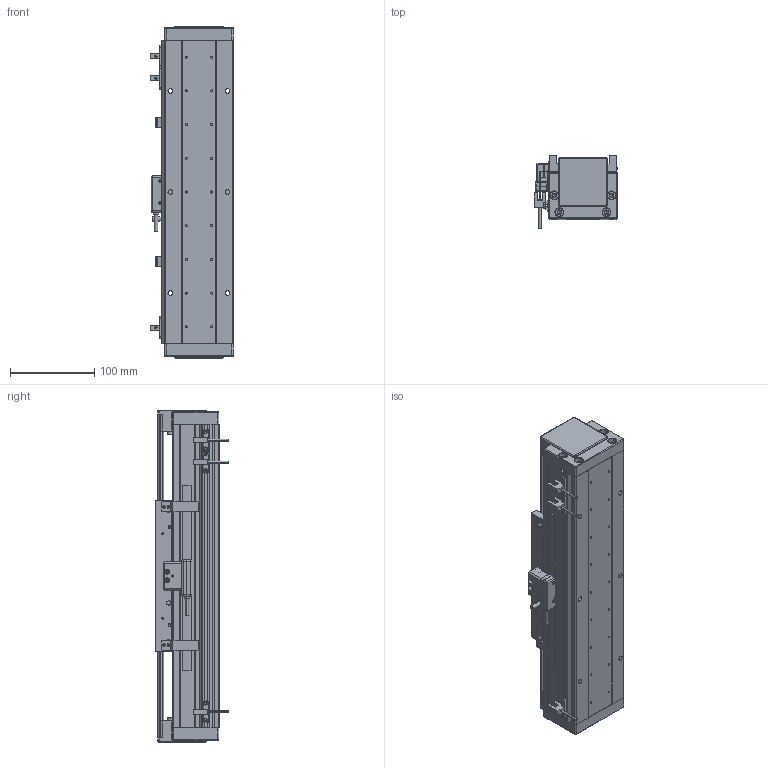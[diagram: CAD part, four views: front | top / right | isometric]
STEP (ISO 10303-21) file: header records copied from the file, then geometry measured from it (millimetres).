
FILE_DESCRIPTION (( 'STEP AP203' ), '1' );
FILE_NAME ('DA-A82-B2-T140-C010-0.2 眻盄萇儂.STEP', '2025-08-13T03:02:11', ( '' ), ( '' ), 'SwSTEP 2.0', 'SolidWorks 2019', '' );
FILE_SCHEMA (( 'CONFIG_CONTROL_DESIGN' ));
Length unit declared in the file: millimetre
Products named in the file (21): 复件 复件 DA82-XJ-00 缓冲橡胶^DA-A82-B2-T-C010-0.2; 复件 DA95-GT-T-00 底座钢轨^IU-AU82-L 底座导轨; 复件 纯铜油杯 6x6mm^AU82-M 滚珠滑台; ｸｴｼ BKM02-W040-C1-TP-DA-3.0 ﾖｱﾏﾟｵ扈巐ｯﾗﾓ^DA-A82-B2-T-C010-0.2; 葩璃 DA82-T-002-00 裔啣^DA-A82-B2-T-C010-0.2; 葩璃 BKM01-W040-TRL^DA-A82-B2-T-C010-0.2; AU82-M-00 珨极趙賑雄怢啣; IU-AU82-L 菁釱絳寢; AU82-HT-M-00 賑雄怢啣; 葩璃 DA60-DMT-DTJ-00 黍杅芛盓殤^DA-A82-B2-T-C010-0.2; AU82-M 幗紩賑怢; 葩璃 PM-T45^DA-A82-B2-T-C010-0.2; DA-A82-B2-T140-C010-0.2 眻盄萇儂; DA-A60-GYP-DMT-00 光电感应片^DA-A82-B2-T-C010-0.2(默认); 复件 DA82-DG-H-N-00 端盖^DA-A82-B2-T-C010-0.2(默认_按加工_); IU-AU82-L-00 菁釱(L360); 葩璃 鞠褒情蹟譫 M3^DA-A82-B2-T-C010-0.2; 葩璃 DA82-B2-DP-00 結え^AU82-M 幗紩賑怢; 葩璃 XD-U-02  棠掑喜^DA-A82-B2-T-C010-0.2; 复件 DA95-B2-GT-00 滑块钢轨^AU82-M-00 一体化滑动台板; 葩璃 DMT-010 1米m 0.2M^DA-A82-B2-T-C010-0.2
Assembly tree (36 placements, depth 4):
  DA-A82-B2-T140-C010-0.2 眻盄萇儂
    IU-AU82-L 菁釱絳寢
      IU-AU82-L-00 菁釱(L360)
      复件 DA95-GT-T-00 底座钢轨^IU-AU82-L 底座导轨  x2
    AU82-M 幗紩賑怢
      AU82-M-00 珨极趙賑雄怢啣
        AU82-HT-M-00 賑雄怢啣
        复件 DA95-B2-GT-00 滑块钢轨^AU82-M-00 一体化滑动台板  x4
      葩璃 DA82-B2-DP-00 結え^AU82-M 幗紩賑怢  x2
      复件 纯铜油杯 6x6mm^AU82-M 滚珠滑台  x2
    葩璃 DA60-DMT-DTJ-00 黍杅芛盓殤^DA-A82-B2-T-C010-0.2
    葩璃 DMT-010 1米m 0.2M^DA-A82-B2-T-C010-0.2
    DA-A60-GYP-DMT-00 光电感应片^DA-A82-B2-T-C010-0.2(默认)  x2
    ｸｴｼ BKM02-W040-C1-TP-DA-3.0 ﾖｱﾏﾟｵ扈巐ｯﾗﾓ^DA-A82-B2-T-C010-0.2
    复件 复件 DA82-XJ-00 缓冲橡胶^DA-A82-B2-T-C010-0.2  x2
    复件 DA82-DG-H-N-00 端盖^DA-A82-B2-T-C010-0.2(默认_按加工_)  x2
    葩璃 DA82-T-002-00 裔啣^DA-A82-B2-T-C010-0.2
    葩璃 BKM01-W040-TRL^DA-A82-B2-T-C010-0.2
    葩璃 PM-T45^DA-A82-B2-T-C010-0.2  x3
    葩璃 XD-U-02  棠掑喜^DA-A82-B2-T-C010-0.2
    葩璃 鞠褒情蹟譫 M3^DA-A82-B2-T-C010-0.2  x6
Bounding box: 98.95 x 87.2 x 394 mm (x, y, z)
Volume: 1603464.5 mm3; surface area: 443810.7 mm2
Topology: 40 solids, 64 shells, 1825 faces, 4654 edges, 2868 vertices
Faces by surface type: cylinder 763, plane 754, cone 252, torus 38, bspline 12, sphere 6
Entity records: 45047 total; most frequent: CARTESIAN_POINT 9253, DIRECTION 7166, ORIENTED_EDGE 6630, EDGE_CURVE 3315, AXIS2_PLACEMENT_3D 2654, VERTEX_POINT 2135, LINE 1858, VECTOR 1858
